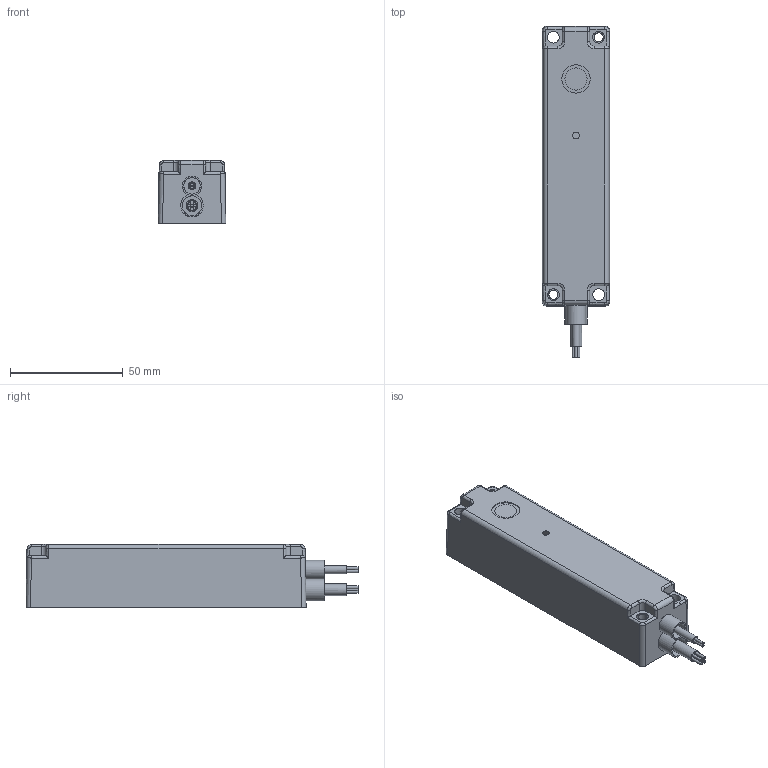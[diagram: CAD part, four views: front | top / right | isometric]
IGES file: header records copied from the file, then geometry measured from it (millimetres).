
Global section: file name: No Iges File Name specified; native system: AutoDesk Inventor R6.1; preprocessor: AutoDesk Inventor Iges Exporter R6.1; author: No Author specified; organization: No Organization specified; date: 20050810.113656; units: millimetre
Bounding box: 30 x 147 x 28.1 mm (x, y, z)
Surface area: 19945.6 mm2 (no closed solid volume)
Topology: 0 solids, 0 shells, 173 faces, 793 edges, 764 vertices
Faces by surface type: revolution 81, plane 80, bspline 12
